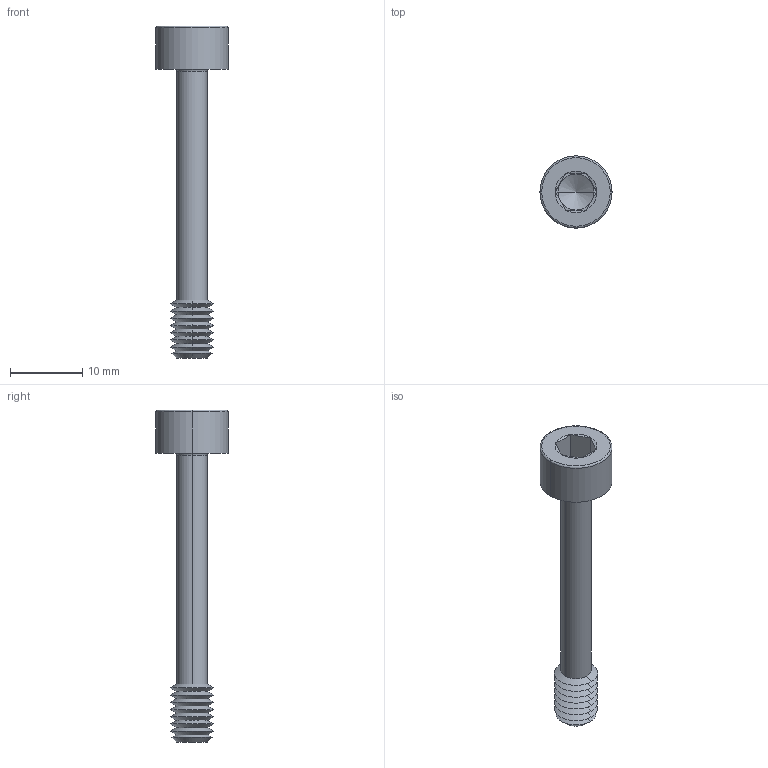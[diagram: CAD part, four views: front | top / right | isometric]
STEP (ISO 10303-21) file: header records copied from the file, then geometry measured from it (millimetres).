
FILE_DESCRIPTION (( 'STEP AP203' ), '1' );
FILE_NAME ('P0154.060-040-BL.step', '2024-06-17T11:29:47', ( '' ), ( '' ), 'SwSTEP 2.0', 'SolidWorks 2019', '' );
FILE_SCHEMA (( 'CONFIG_CONTROL_DESIGN' ));
Length unit declared in the file: millimetre
Products named in the file (1): P0154.060-040-BL
Bounding box: 10 x 10 x 46 mm (x, y, z)
Volume: 961.8 mm3; surface area: 1103.4 mm2
Topology: 1 solids, 1 shells, 63 faces, 128 edges, 67 vertices
Faces by surface type: cone 40, plane 15, torus 4, cylinder 4
Entity records: 1687 total; most frequent: DIRECTION 312, CARTESIAN_POINT 283, ORIENTED_EDGE 252, AXIS2_PLACEMENT_3D 128, EDGE_CURVE 126, VERTEX_POINT 67, EDGE_LOOP 65, CIRCLE 64
